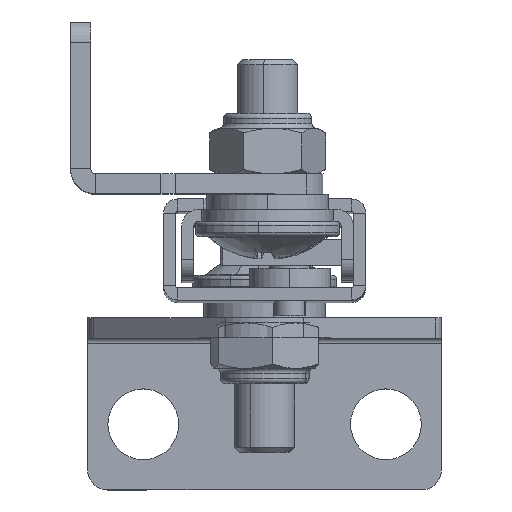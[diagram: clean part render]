
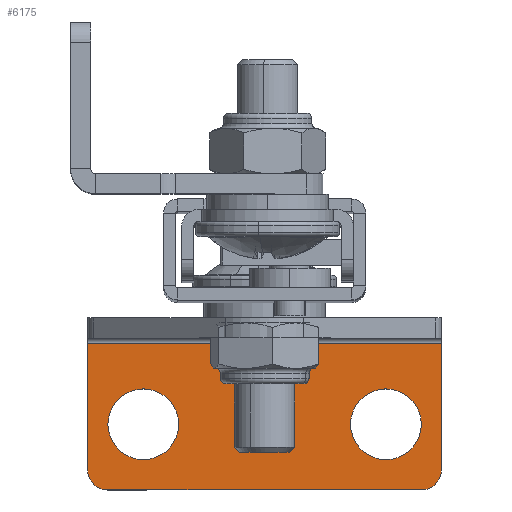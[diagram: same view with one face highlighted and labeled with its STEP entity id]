
A CAD part, top view. The second image highlights one B-rep face of the part: STEP entity #6175.
In plain terms, the highlighted planar face has unit normal (0, 0, 1) as drawn and (0, 1, 0) by its records, which use the part's own axes.
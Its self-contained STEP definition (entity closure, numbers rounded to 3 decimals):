
#10 = EDGE_CURVE ( 'NONE', #1609, #4432, #2763, .T. ) ;
#66 = LINE ( 'NONE', #285, #1707 ) ;
#67 = VERTEX_POINT ( 'NONE', #3870 ) ;
#143 = DIRECTION ( 'NONE',  ( 0., 0., -1. ) ) ;
#159 = CARTESIAN_POINT ( 'NONE',  ( 15.5, 2., 15. ) ) ;
#180 = DIRECTION ( 'NONE',  ( 0., 0., 1. ) ) ;
#206 = DIRECTION ( 'NONE',  ( 0., -1., 0. ) ) ;
#225 = VECTOR ( 'NONE', #7769, 1000. ) ;
#268 = DIRECTION ( 'NONE',  ( 0., 0., 1. ) ) ;
#285 = CARTESIAN_POINT ( 'NONE',  ( 17.5, 2., 17. ) ) ;
#316 = DIRECTION ( 'NONE',  ( 0., 0., 1. ) ) ;
#392 = CARTESIAN_POINT ( 'NONE',  ( 12., 2., 10.5 ) ) ;
#402 = DIRECTION ( 'NONE',  ( 0., -1., 0. ) ) ;
#498 = PLANE ( 'NONE',  #5187 ) ;
#509 = CARTESIAN_POINT ( 'NONE',  ( -15.5, 2., 17. ) ) ;
#615 = LINE ( 'NONE', #6790, #7225 ) ;
#616 = VERTEX_POINT ( 'NONE', #860 ) ;
#631 = ORIENTED_EDGE ( 'NONE', *, *, #2221, .T. ) ;
#664 = LINE ( 'NONE', #5568, #2328 ) ;
#686 = CARTESIAN_POINT ( 'NONE',  ( -12., 2., 7. ) ) ;
#715 = VERTEX_POINT ( 'NONE', #4654 ) ;
#773 = DIRECTION ( 'NONE',  ( 0., 0., 1. ) ) ;
#826 = ORIENTED_EDGE ( 'NONE', *, *, #5667, .F. ) ;
#831 = CARTESIAN_POINT ( 'NONE',  ( -17.5, 2., 2.5 ) ) ;
#860 = CARTESIAN_POINT ( 'NONE',  ( 15.5, 2., 17. ) ) ;
#877 = ORIENTED_EDGE ( 'NONE', *, *, #1004, .T. ) ;
#889 = CARTESIAN_POINT ( 'NONE',  ( -12., 2., 10.5 ) ) ;
#927 = CARTESIAN_POINT ( 'NONE',  ( 17.5, 2., 2.5 ) ) ;
#1004 = EDGE_CURVE ( 'NONE', #67, #7117, #66, .T. ) ;
#1119 = ORIENTED_EDGE ( 'NONE', *, *, #5877, .T. ) ;
#1197 = AXIS2_PLACEMENT_3D ( 'NONE', #3912, #206, #4544 ) ;
#1362 = CIRCLE ( 'NONE', #7587, 2. ) ;
#1386 = CARTESIAN_POINT ( 'NONE',  ( -12., 2., 14. ) ) ;
#1416 = EDGE_LOOP ( 'NONE', ( #826, #5276, #5080, #5887, #877, #631 ) ) ;
#1437 = AXIS2_PLACEMENT_3D ( 'NONE', #5182, #1485, #5811 ) ;
#1485 = DIRECTION ( 'NONE',  ( 0., 1., 0. ) ) ;
#1536 = FACE_BOUND ( 'NONE', #5988, .T. ) ;
#1568 = EDGE_CURVE ( 'NONE', #4131, #6264, #1602, .T. ) ;
#1602 = CIRCLE ( 'NONE', #2107, 3.5 ) ;
#1609 = VERTEX_POINT ( 'NONE', #686 ) ;
#1616 = VERTEX_POINT ( 'NONE', #831 ) ;
#1707 = VECTOR ( 'NONE', #143, 1000. ) ;
#2045 = CIRCLE ( 'NONE', #1437, 2. ) ;
#2107 = AXIS2_PLACEMENT_3D ( 'NONE', #392, #402, #316 ) ;
#2150 = EDGE_CURVE ( 'NONE', #616, #4152, #615, .T. ) ;
#2221 = EDGE_CURVE ( 'NONE', #7117, #1616, #3527, .T. ) ;
#2328 = VECTOR ( 'NONE', #6194, 1000. ) ;
#2763 = CIRCLE ( 'NONE', #4709, 3.5 ) ;
#3184 = FACE_OUTER_BOUND ( 'NONE', #1416, .T. ) ;
#3241 = ORIENTED_EDGE ( 'NONE', *, *, #6455, .T. ) ;
#3371 = FACE_BOUND ( 'NONE', #5646, .T. ) ;
#3379 = AXIS2_PLACEMENT_3D ( 'NONE', #7600, #3875, #180 ) ;
#3527 = LINE ( 'NONE', #6740, #225 ) ;
#3615 = DIRECTION ( 'NONE',  ( 0., 0., 1. ) ) ;
#3870 = CARTESIAN_POINT ( 'NONE',  ( 17.5, 2., 15. ) ) ;
#3875 = DIRECTION ( 'NONE',  ( 0., -1., 0. ) ) ;
#3912 = CARTESIAN_POINT ( 'NONE',  ( 12., 2., 10.5 ) ) ;
#4131 = VERTEX_POINT ( 'NONE', #5441 ) ;
#4152 = VERTEX_POINT ( 'NONE', #509 ) ;
#4432 = VERTEX_POINT ( 'NONE', #1386 ) ;
#4483 = DIRECTION ( 'NONE',  ( 0., 1., 0. ) ) ;
#4538 = EDGE_CURVE ( 'NONE', #715, #4152, #2045, .T. ) ;
#4544 = DIRECTION ( 'NONE',  ( 0., 0., 1. ) ) ;
#4602 = DIRECTION ( 'NONE',  ( 0., -1., 0. ) ) ;
#4654 = CARTESIAN_POINT ( 'NONE',  ( -17.5, 2., 15. ) ) ;
#4709 = AXIS2_PLACEMENT_3D ( 'NONE', #889, #4602, #268 ) ;
#5080 = ORIENTED_EDGE ( 'NONE', *, *, #2150, .F. ) ;
#5182 = CARTESIAN_POINT ( 'NONE',  ( -15.5, 2., 15. ) ) ;
#5187 = AXIS2_PLACEMENT_3D ( 'NONE', #6704, #7345, #3615 ) ;
#5276 = ORIENTED_EDGE ( 'NONE', *, *, #4538, .T. ) ;
#5405 = ORIENTED_EDGE ( 'NONE', *, *, #1568, .T. ) ;
#5441 = CARTESIAN_POINT ( 'NONE',  ( 12., 2., 7. ) ) ;
#5568 = CARTESIAN_POINT ( 'NONE',  ( -17.5, 2., 17. ) ) ;
#5646 = EDGE_LOOP ( 'NONE', ( #5405, #1119 ) ) ;
#5667 = EDGE_CURVE ( 'NONE', #715, #1616, #664, .T. ) ;
#5811 = DIRECTION ( 'NONE',  ( 0., 0., 1. ) ) ;
#5818 = EDGE_CURVE ( 'NONE', #616, #67, #1362, .T. ) ;
#5877 = EDGE_CURVE ( 'NONE', #6264, #4131, #7378, .T. ) ;
#5887 = ORIENTED_EDGE ( 'NONE', *, *, #5818, .T. ) ;
#5988 = EDGE_LOOP ( 'NONE', ( #6690, #3241 ) ) ;
#5993 = CIRCLE ( 'NONE', #3379, 3.5 ) ;
#6175 = ADVANCED_FACE ( 'NONE', ( #3371, #1536, #3184 ), #498, .T. ) ;
#6194 = DIRECTION ( 'NONE',  ( 0., 0., -1. ) ) ;
#6264 = VERTEX_POINT ( 'NONE', #7423 ) ;
#6455 = EDGE_CURVE ( 'NONE', #4432, #1609, #5993, .T. ) ;
#6690 = ORIENTED_EDGE ( 'NONE', *, *, #10, .T. ) ;
#6704 = CARTESIAN_POINT ( 'NONE',  ( 17.5, 2., 17. ) ) ;
#6740 = CARTESIAN_POINT ( 'NONE',  ( 17.5, 2., 2.5 ) ) ;
#6790 = CARTESIAN_POINT ( 'NONE',  ( 17.5, 2., 17. ) ) ;
#6842 = DIRECTION ( 'NONE',  ( -1., 0., 0. ) ) ;
#7117 = VERTEX_POINT ( 'NONE', #927 ) ;
#7225 = VECTOR ( 'NONE', #6842, 1000. ) ;
#7345 = DIRECTION ( 'NONE',  ( 0., 1., 0. ) ) ;
#7378 = CIRCLE ( 'NONE', #1197, 3.5 ) ;
#7423 = CARTESIAN_POINT ( 'NONE',  ( 12., 2., 14. ) ) ;
#7587 = AXIS2_PLACEMENT_3D ( 'NONE', #159, #4483, #773 ) ;
#7600 = CARTESIAN_POINT ( 'NONE',  ( -12., 2., 10.5 ) ) ;
#7769 = DIRECTION ( 'NONE',  ( -1., 0., 0. ) ) ;
